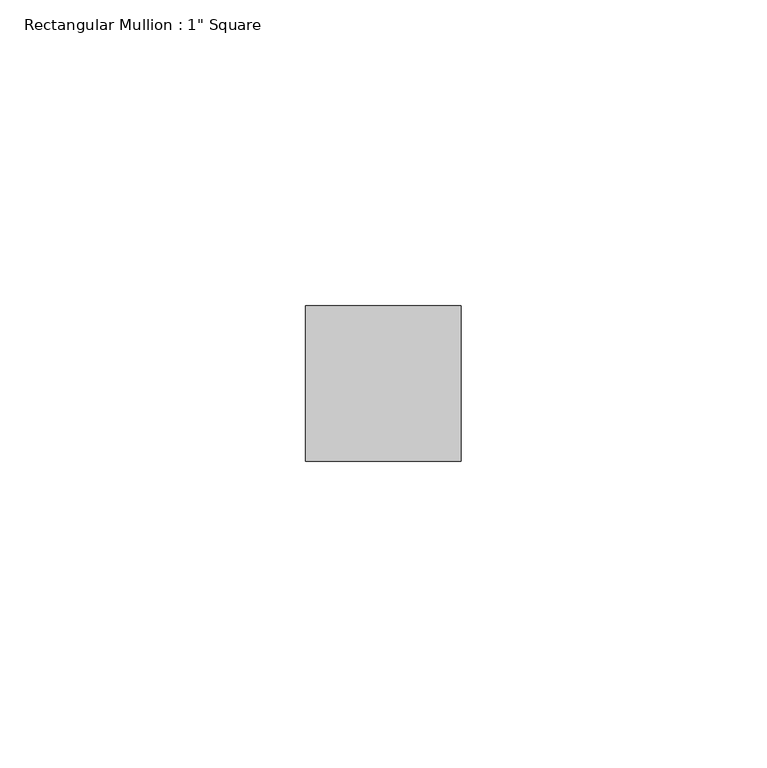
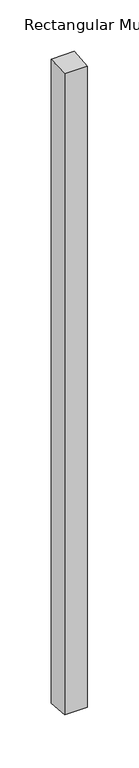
"""IFC4 building model written with IfcOpenShell, lengths in millimetres: member geometry."""

from ifc_helpers import new_model, si_unit, origin, place, context, project, spatial, faceted_brep, source, transform, mapped, element, save


def member_fd7ad58a(model_context):
    return source(origin(), model_context, "Body", "Brep", [
        faceted_brep([(-25.4, 12.7, 0.7754256), (0.0, 12.7, 1.0529248), (0.0, 12.7, -763.0529248), (-25.4, 12.7, -762.7754256), (-25.4, -12.7, -1.330424), (-25.4, -12.7, -760.669576), (0.0, -12.7, -1.0529248), (0.0, -12.7, -760.9470752)], [[[0, 1, 2, 3]], [[4, 0, 3, 5]], [[6, 4, 5, 7]], [[1, 6, 7, 2]], [[1, 0, 4, 6]], [[2, 7, 5, 3]]]),
    ])


if __name__ == "__main__":
    model = new_model("IFC4")
    model_context = context("Model", 3, world=origin())
    ifc_project = project(units=[si_unit("LENGTHUNIT", "METRE", prefix="MILLI")], contexts=[model_context])
    site = spatial("IfcSite", under=ifc_project)
    building = spatial("IfcBuilding", under=site)
    placement = place(None, origin())
    member_shape = member_fd7ad58a(model_context)
    element("IfcMember", 1, ObjectType="Rectangular Mullion : 1\" Square", at=placement, inside=building, context=model_context, shape_type="MappedRepresentation", body=[
        mapped(member_shape, transform((0.0, 0.0, 0.0), x_axis=(1.0, 0.0, 0.0), y_axis=(0.0, 1.0, 0.0), z_axis=(0.0, 0.0, 1.0))),
    ])
    save(model, "model.ifc")
